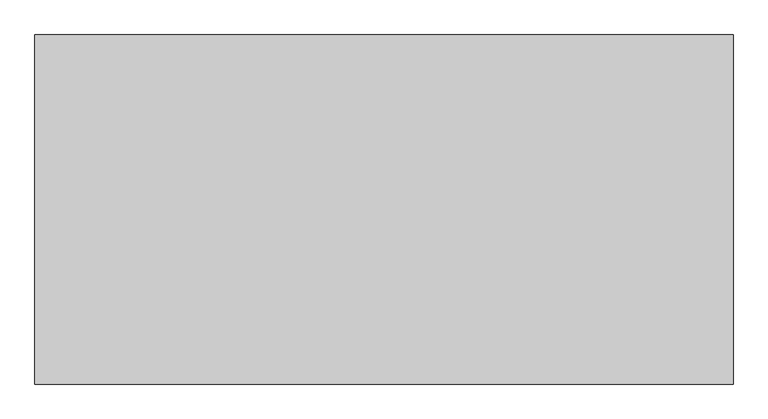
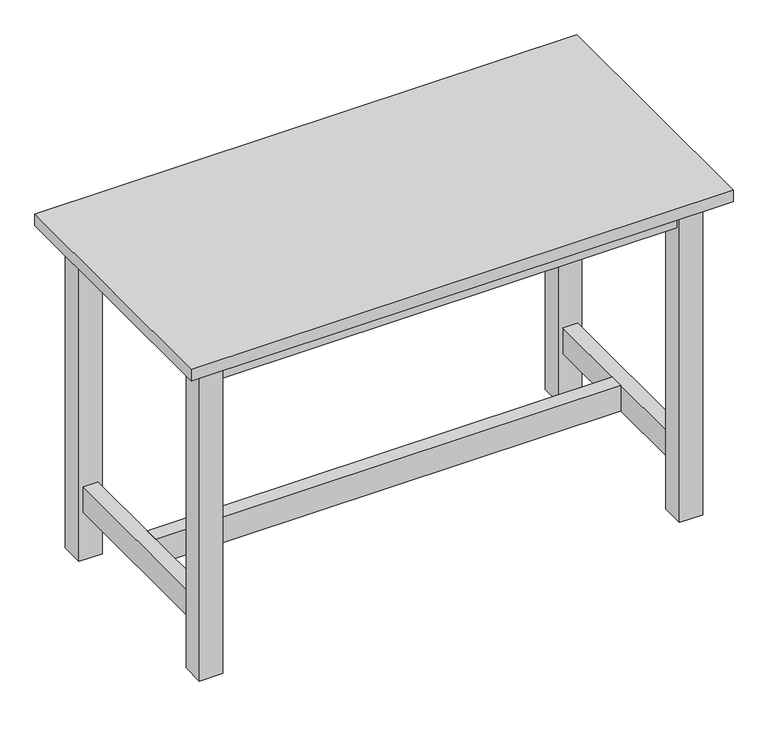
"""IFC4 building model written with IfcOpenShell, lengths in millimetres: furniture geometry, 2.2 Mesa de madera de física : 2.2 Mesa de madera de física."""

import ifcopenshell
import ifcopenshell.guid

model = None  # the IFC model being written
_history = None  # IfcOwnerHistory: only IFC2X3 demands one
_inside = {}  # id of a spatial element -> (the spatial element, [elements in it])
_under = {}  # id of a project, library or spatial element -> (it, [spatial elements below it])
_declared = {}  # id of a project -> (the project, [libraries it declares])
_typed = {}  # id of a type object -> (the type object, [elements of that type])
_made_of = {}  # id of a material, layer set ... -> (it, [elements and type objects made of it])


def new_model(schema):
    """Start an empty IFC model of exactly this schema.

    Asked for "IFC4X3", IfcOpenShell would pick the latest addendum, in which some entities
    have other attributes; the version numbers below select the first issue.
    IFC2X3 requires an IfcOwnerHistory on every rooted entity: one is made here for all.
    """
    global model, _history
    if schema == "IFC4X3":
        model = ifcopenshell.file(schema_version=(4, 3, 0, 0))
    else:
        model = ifcopenshell.file(schema=schema)
    _inside.clear()
    _under.clear()
    _declared.clear()
    _typed.clear()
    _made_of.clear()
    _history = None
    if model.schema == "IFC2X3":
        org = make("IfcOrganization", Name="unknown")
        user = make(
            "IfcPersonAndOrganization",
            ThePerson=make("IfcPerson", FamilyName="unknown"),
            TheOrganization=org,
        )
        app = make(
            "IfcApplication",
            ApplicationDeveloper=org,
            Version="unknown",
            ApplicationFullName="unknown",
            ApplicationIdentifier="unknown",
        )
        _history = make(
            "IfcOwnerHistory",
            OwningUser=user,
            OwningApplication=app,
            ChangeAction="ADDED",
            CreationDate=0,
        )
    return model


def make(cls, **values):
    """One entity of the class cls with the attributes given. An attribute that is None is left unset."""
    return model.create_entity(
        cls, **{name: value for name, value in values.items() if value is not None}
    )


def rooted(cls, **values):
    """An entity with a GlobalId (a new one), such as an element, a storey or a relation."""
    return make(cls, GlobalId=ifcopenshell.guid.new(), OwnerHistory=_history, **values)


def si_unit(unit_type, name, prefix=None):
    """IfcSIUnit, for example si_unit("LENGTHUNIT", "METRE", prefix="MILLI")."""
    return make("IfcSIUnit", UnitType=unit_type, Prefix=prefix, Name=name)


def assignment(units):
    """IfcUnitAssignment: the units of a project."""
    return None if units is None else make("IfcUnitAssignment", Units=units)


def point(xyz):
    """IfcCartesianPoint."""
    return None if xyz is None else make("IfcCartesianPoint", Coordinates=xyz)


def direction(xyz):
    """IfcDirection."""
    return None if xyz is None else make("IfcDirection", DirectionRatios=xyz)


def frame(location, z_axis=None, x_axis=None):
    """IfcAxis2Placement3D, a coordinate frame: its origin and axes. An axis left out is left unset."""
    return make(
        "IfcAxis2Placement3D",
        Location=point(location),
        Axis=direction(z_axis),
        RefDirection=direction(x_axis),
    )


def origin():
    """The frame at (0, 0, 0) with its axes left unset."""
    return frame((0.0, 0.0, 0.0))


def origin_with_axes():
    """The frame at (0, 0, 0) with the z axis (0, 0, 1) and the x axis (1, 0, 0) written out."""
    return frame((0.0, 0.0, 0.0), z_axis=(0.0, 0.0, 1.0), x_axis=(1.0, 0.0, 0.0))


def place(relative_to, where):
    """IfcLocalPlacement: puts the frame where relative to a parent placement (None: the world)."""
    return make(
        "IfcLocalPlacement", PlacementRelTo=relative_to, RelativePlacement=where
    )


def context(
    kind, dimensions, precision=None, world=None, true_north=None, identifier=None
):
    """IfcGeometricRepresentationContext, for example the 3D "Model" context."""
    return make(
        "IfcGeometricRepresentationContext",
        ContextIdentifier=identifier,
        ContextType=kind,
        CoordinateSpaceDimension=dimensions,
        Precision=precision,
        WorldCoordinateSystem=world,
        TrueNorth=true_north,
    )


def project(units=None, contexts=None):
    """IfcProject with its units and contexts."""
    return rooted(
        "IfcProject",
        Name="project",
        RepresentationContexts=contexts,
        UnitsInContext=assignment(units),
    )


def spatial(cls, under=None, at=None, **own):
    """A site, building, storey or space (cls), placed at a placement, below another one or the project."""
    s = rooted(cls, ObjectPlacement=at, **own)
    if under is not None:
        _under.setdefault(under.id(), (under, []))[1].append(s)
    return s


def polyline(points):
    """IfcPolyline through the points."""
    return make("IfcPolyline", Points=[point(p) for p in points])


def outline(outer, holes=None, kind="AREA"):
    """IfcArbitraryClosedProfileDef: a profile drawn as a closed curve; with holes, ...WithVoids."""
    if holes is None:
        return make("IfcArbitraryClosedProfileDef", ProfileType=kind, OuterCurve=outer)
    return make(
        "IfcArbitraryProfileDefWithVoids",
        ProfileType=kind,
        OuterCurve=outer,
        InnerCurves=holes,
    )


def extrude(swept, where, along, depth):
    """IfcExtrudedAreaSolid: the profile swept, set in the frame where, extruded along a direction by depth."""
    return make(
        "IfcExtrudedAreaSolid",
        SweptArea=swept,
        Position=where,
        ExtrudedDirection=direction(along),
        Depth=depth,
    )


def shape(context_of_items, identifier, shape_type, items):
    """IfcShapeRepresentation: the items that make up one representation, for example the "Body"."""
    return make(
        "IfcShapeRepresentation",
        ContextOfItems=context_of_items,
        RepresentationIdentifier=identifier,
        RepresentationType=shape_type,
        Items=items,
    )


def source(mapping_origin, context_of_items, identifier, shape_type, items):
    """IfcRepresentationMap: a shape defined once, which mapped items show again and again."""
    return make(
        "IfcRepresentationMap",
        MappingOrigin=mapping_origin,
        MappedRepresentation=shape(context_of_items, identifier, shape_type, items),
    )


def transform(
    local_origin,
    x_axis=None,
    y_axis=None,
    z_axis=None,
    scale=None,
    scale2=None,
    scale3=None,
    uniform=True,
):
    """IfcCartesianTransformationOperator3D, or its non-uniform kind. x_axis, y_axis, z_axis: its Axis1, 2, 3."""
    if uniform:
        return make(
            "IfcCartesianTransformationOperator3D",
            Axis1=direction(x_axis),
            Axis2=direction(y_axis),
            LocalOrigin=point(local_origin),
            Scale=scale,
            Axis3=direction(z_axis),
        )
    return make(
        "IfcCartesianTransformationOperator3DnonUniform",
        Axis1=direction(x_axis),
        Axis2=direction(y_axis),
        LocalOrigin=point(local_origin),
        Scale=scale,
        Axis3=direction(z_axis),
        Scale2=scale2,
        Scale3=scale3,
    )


def mapped(mapping_source, mapping_target):
    """IfcMappedItem: shows the shape of a source again, moved by a transform."""
    return make(
        "IfcMappedItem", MappingSource=mapping_source, MappingTarget=mapping_target
    )


def made_of(thing, what):
    """Note that an element or type object is made of a material, layer set ...; save() writes the relation."""
    if what is not None:
        _made_of.setdefault(what.id(), (what, []))[1].append(thing)
    return thing


def element(
    cls,
    number,
    at=None,
    inside=None,
    cuts=None,
    type_object=None,
    material=None,
    context=None,
    identifier="Body",
    shape_type=None,
    held_by="IfcProductDefinitionShape",
    body=None,
    shapes=None,
    **own,
):
    """One element of the class cls, such as IfcWall. Its Tag is "e" and its number.

    at: its placement. inside: the storey or other place that contains it. cuts: it is an
    opening in that element (IfcRelVoidsElement). A single representation is given by context,
    identifier, shape_type and body (its items); several are given by shapes. held_by: the class
    of the entity that holds the representations. save() writes the other relations.
    """
    e = rooted(cls, Tag="e%d" % number, ObjectPlacement=at, **own)
    if body is not None:
        shapes = [shape(context, identifier, shape_type, body)]
    if shapes is not None:
        e.Representation = make(held_by, Representations=shapes)
    if inside is not None:
        _inside.setdefault(inside.id(), (inside, []))[1].append(e)
    if cuts is not None:
        rooted(
            "IfcRelVoidsElement", RelatingBuildingElement=cuts, RelatedOpeningElement=e
        )
    if type_object is not None:
        _typed.setdefault(type_object.id(), (type_object, []))[1].append(e)
    return made_of(e, material)


def aggregate(whole, parts):
    """IfcRelAggregates: a whole, such as a stair, and the parts it consists of."""
    return rooted("IfcRelAggregates", RelatingObject=whole, RelatedObjects=parts)


def save(model, path):
    """Write the relations noted so far, then the file.

    IfcRelAggregates (storeys below a building ...), IfcRelContainedInSpatialStructure (elements
    in a storey), IfcRelDefinesByType, IfcRelAssociatesMaterial and IfcRelDeclares: one each for
    every whole, place, type object, material and project.
    """
    for whole, parts in _under.values():
        aggregate(whole, parts)
    for where, things in _inside.values():
        rooted(
            "IfcRelContainedInSpatialStructure",
            RelatedElements=things,
            RelatingStructure=where,
        )
    for kind, things in _typed.values():
        rooted("IfcRelDefinesByType", RelatedObjects=things, RelatingType=kind)
    for what, things in _made_of.values():
        rooted("IfcRelAssociatesMaterial", RelatedObjects=things, RelatingMaterial=what)
    for by, libraries in _declared.values():
        rooted("IfcRelDeclares", RelatingContext=by, RelatedDefinitions=libraries)
    model.write(path)


def furniture_8aaaafb9(model_context):
    return source(origin(), model_context, "Body", "SweptSolid", [
        extrude(outline(polyline([(-652.6560585, -270.5811863), (-592.6279824, -270.5811863), (-592.6279824, -330.5787449), (-652.6560585, -330.5787449), (-652.6560585, -270.5811863)])), origin_with_axes(), (0.0, 0.0, 1.0), 868.7499166),
        extrude(outline(polyline([(697.3195274, -380.5970554), (-702.6743691, -380.5970554), (-702.6743691, 319.4151516), (697.3195274, 319.4151516), (697.3195274, -380.5970554)])), frame((0.0, 0.0, 868.7498569), z_axis=(0.0, 0.0, 1.0), x_axis=(1.0, 0.0, 0.0)), (0.0, 0.0, 1.0), 31.25),
        extrude(outline(polyline([(-652.6560585, 269.396841), (-592.6279824, 269.396841), (-592.6279824, 209.4145412), (-652.6560585, 209.4145412), (-652.6560585, 269.396841)])), origin_with_axes(), (0.0, 0.0, 1.0), 868.7499166),
        extrude(outline(polyline([(598.320504, -49.5728855), (-603.6753457, -49.5728855), (-603.6753457, -11.5937595), (598.320504, -11.5937595), (598.320504, -49.5728855)])), frame((0.0, 0.0, 129.9999952), z_axis=(0.0, 0.0, 1.0), x_axis=(1.0, 0.0, 0.0)), (0.0, 0.0, 1.0), 70.0000077),
        extrude(outline(polyline([(-641.6697304, 209.4145412), (-603.6753457, 209.4145412), (-603.6753457, -270.5811863), (-641.6697304, -270.5811863), (-641.6697304, 209.4145412)])), frame((0.0, 0.0, 129.9999952), z_axis=(0.0, 0.0, 1.0), x_axis=(1.0, 0.0, 0.0)), (0.0, 0.0, 1.0), 70.0000077),
        extrude(outline(polyline([(647.362252, -330.5787449), (587.3341758, -330.5787449), (587.3341758, -270.5811863), (647.362252, -270.5811863), (647.362252, -330.5787449)])), origin_with_axes(), (0.0, 0.0, 1.0), 868.7499166),
        extrude(outline(polyline([(598.320504, 209.4145412), (636.3148887, 209.4145412), (636.3148887, -270.5811863), (598.320504, -270.5811863), (598.320504, 209.4145412)])), frame((0.0, 0.0, 129.9999952), z_axis=(0.0, 0.0, 1.0), x_axis=(1.0, 0.0, 0.0)), (0.0, 0.0, 1.0), 70.0000077),
        extrude(outline(polyline([(647.362252, 209.4145412), (587.3341758, 209.4145412), (587.3341758, 269.396841), (647.362252, 269.396841), (647.362252, 209.4145412)])), origin_with_axes(), (0.0, 0.0, 1.0), 868.7499166),
        extrude(outline(polyline([(627.3427207, -319.577158), (-592.6279824, -319.577158), (-592.6279824, -281.598032), (627.3427207, -281.598032), (627.3427207, -319.577158)])), frame((0.0, 0.0, 798.7499833), z_axis=(0.0, 0.0, 1.0), x_axis=(1.0, 0.0, 0.0)), (0.0, 0.0, 1.0), 69.9999332),
        extrude(outline(polyline([(16.3197715, -281.598032), (-21.6746132, -281.598032), (-21.6746132, 220.4008694), (16.3197715, 220.4008694), (16.3197715, -281.598032)])), frame((0.0, 0.0, 818.7500834), z_axis=(0.0, 0.0, 1.0), x_axis=(1.0, 0.0, 0.0)), (0.0, 0.0, 1.0), 49.9998331),
        extrude(outline(polyline([(627.3427207, 220.4008694), (-592.6279824, 220.4008694), (-592.6279824, 258.4105129), (627.3427207, 258.4105129), (627.3427207, 220.4008694)])), frame((0.0, 0.0, 798.7499833), z_axis=(0.0, 0.0, 1.0), x_axis=(1.0, 0.0, 0.0)), (0.0, 0.0, 1.0), 69.9999332),
        extrude(outline(polyline([(-603.6753457, -270.5811863), (-641.6697304, -270.5811863), (-641.6697304, 209.4145412), (-603.6753457, 209.4145412), (-603.6753457, -270.5811863)])), frame((0.0, 0.0, 798.7499833), z_axis=(0.0, 0.0, 1.0), x_axis=(1.0, 0.0, 0.0)), (0.0, 0.0, 1.0), 69.9999332),
        extrude(outline(polyline([(636.3148887, -270.5811863), (598.320504, -270.5811863), (598.320504, 209.4145412), (636.3148887, 209.4145412), (636.3148887, -270.5811863)])), frame((0.0, 0.0, 798.7499833), z_axis=(0.0, 0.0, 1.0), x_axis=(1.0, 0.0, 0.0)), (0.0, 0.0, 1.0), 69.9999332),
    ])


if __name__ == "__main__":
    model = new_model("IFC4")
    model_context = context("Model", 3, world=origin())
    ifc_project = project(units=[si_unit("LENGTHUNIT", "METRE", prefix="MILLI")], contexts=[model_context])
    site = spatial("IfcSite", under=ifc_project)
    building = spatial("IfcBuilding", under=site)
    placement = place(None, origin())
    furniture_shape = furniture_8aaaafb9(model_context)
    element("IfcFurniture", 1, ObjectType="2.2 Mesa de madera de física : 2.2 Mesa de madera de física", at=placement, inside=building, context=model_context, shape_type="MappedRepresentation", body=[
        mapped(furniture_shape, transform((0.0, 0.0, 0.0), x_axis=(1.0, 0.0, 0.0), y_axis=(0.0, 1.0, 0.0), z_axis=(0.0, 0.0, 1.0))),
    ])
    save(model, "model.ifc")
